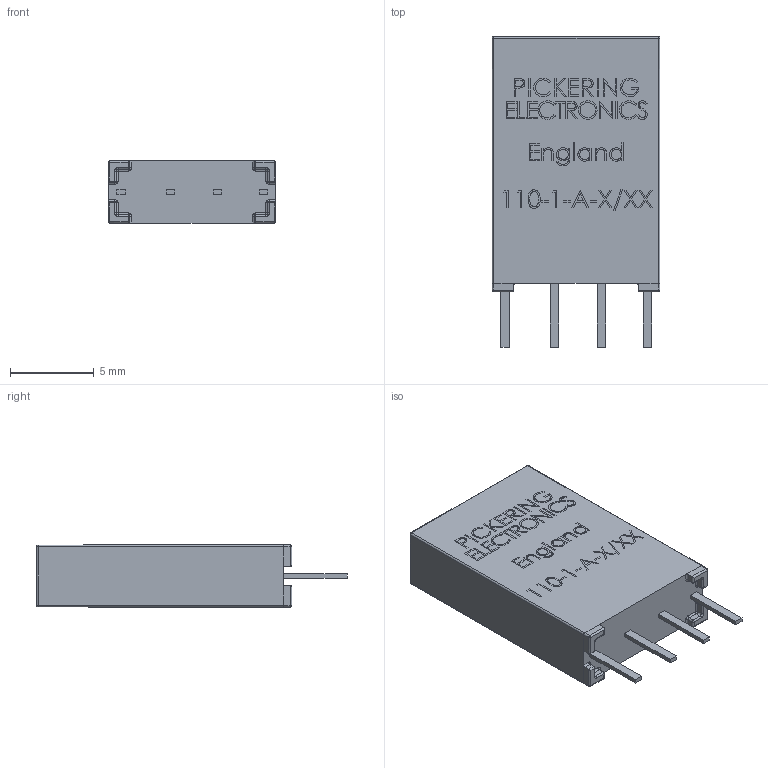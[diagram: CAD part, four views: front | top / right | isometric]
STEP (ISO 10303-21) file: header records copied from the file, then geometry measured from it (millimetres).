
FILE_DESCRIPTION (( 'STEP AP214' ), '1' );
FILE_NAME ('110-1-A.STEP', '2010-11-26T11:40:22', ( ' ' ), ( '' ), 'SwSTEP 2.0', 'SolidWorks 2009', '' );
FILE_SCHEMA (( 'AUTOMOTIVE_DESIGN' ));
Length unit declared in the file: millimetre
Products named in the file (1): 110-1-A
Bounding box: 10 x 18.5 x 3.7 mm (x, y, z)
Volume: 546.1 mm3; surface area: 509.5 mm2
Topology: 1 solids, 1 shells, 779 faces, 2024 edges, 1300 vertices
Faces by surface type: plane 511, bspline 170, cylinder 66, sphere 20, torus 12
Entity records: 47861 total; most frequent: CARTESIAN_POINT 21418, ORIENTED_EDGE 4008, DIRECTION 3000, EDGE_CURVE 2004, VECTOR 1532, LINE 1532, VERTEX_POINT 1300, EDGE_LOOP 852
